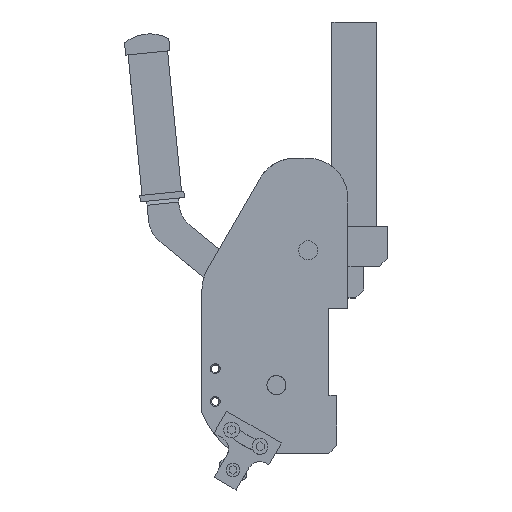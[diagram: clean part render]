
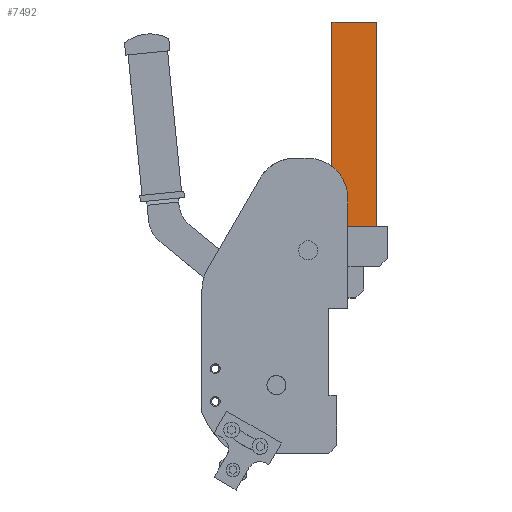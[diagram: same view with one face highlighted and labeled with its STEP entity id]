
A CAD part, top view. The second image highlights one B-rep face of the part: STEP entity #7492.
In plain terms, the highlighted planar face has unit normal (0, 0, 1) as drawn and (0, 0, -1) by its records, which use the part's own axes.
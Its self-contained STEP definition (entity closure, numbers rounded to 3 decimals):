
#84 = ORIENTED_EDGE ( 'NONE', *, *, #9166, .F. ) ;
#885 = ORIENTED_EDGE ( 'NONE', *, *, #8489, .T. ) ;
#922 = LINE ( 'NONE', #11875, #12128 ) ;
#1449 = CARTESIAN_POINT ( 'NONE',  ( 0., 28., -10. ) ) ;
#1513 = EDGE_LOOP ( 'NONE', ( #3774, #885, #84, #3937 ) ) ;
#1603 = AXIS2_PLACEMENT_3D ( 'NONE', #6990, #6906, #6932 ) ;
#3774 = ORIENTED_EDGE ( 'NONE', *, *, #11000, .T. ) ;
#3825 = FACE_OUTER_BOUND ( 'NONE', #1513, .T. ) ;
#3937 = ORIENTED_EDGE ( 'NONE', *, *, #8494, .T. ) ;
#4444 = LINE ( 'NONE', #11584, #11578 ) ;
#5521 = DIRECTION ( 'NONE',  ( 1., 0., 0. ) ) ;
#6454 = VECTOR ( 'NONE', #5521, 1000. ) ;
#6865 = VECTOR ( 'NONE', #9343, 1000. ) ;
#6906 = DIRECTION ( 'NONE',  ( 0., 0., 1. ) ) ;
#6932 = DIRECTION ( 'NONE',  ( 1., 0., 0. ) ) ;
#6976 = PLANE ( 'NONE',  #1603 ) ;
#6990 = CARTESIAN_POINT ( 'NONE',  ( 129., 28., -10. ) ) ;
#7030 = CARTESIAN_POINT ( 'NONE',  ( 0., 28., -10. ) ) ;
#7492 = ADVANCED_FACE ( 'NONE', ( #3825 ), #6976, .F. ) ;
#7531 = CARTESIAN_POINT ( 'NONE',  ( 129., 28., -10. ) ) ;
#8262 = LINE ( 'NONE', #7030, #6454 ) ;
#8331 = CARTESIAN_POINT ( 'NONE',  ( 129., 0., -10. ) ) ;
#8489 = EDGE_CURVE ( 'NONE', #10613, #10767, #11662, .T. ) ;
#8494 = EDGE_CURVE ( 'NONE', #10481, #10977, #8262, .T. ) ;
#9166 = EDGE_CURVE ( 'NONE', #10481, #10767, #4444, .T. ) ;
#9343 = DIRECTION ( 'NONE',  ( -1., 0., 0. ) ) ;
#9759 = CARTESIAN_POINT ( 'NONE',  ( 0., 0., -10. ) ) ;
#10375 = DIRECTION ( 'NONE',  ( 0., -1., 0. ) ) ;
#10463 = CARTESIAN_POINT ( 'NONE',  ( 129., 0., -10. ) ) ;
#10481 = VERTEX_POINT ( 'NONE', #1449 ) ;
#10613 = VERTEX_POINT ( 'NONE', #8331 ) ;
#10662 = DIRECTION ( 'NONE',  ( 0., -1., 0. ) ) ;
#10767 = VERTEX_POINT ( 'NONE', #9759 ) ;
#10977 = VERTEX_POINT ( 'NONE', #7531 ) ;
#11000 = EDGE_CURVE ( 'NONE', #10977, #10613, #922, .T. ) ;
#11578 = VECTOR ( 'NONE', #10375, 1000. ) ;
#11584 = CARTESIAN_POINT ( 'NONE',  ( 0., 28., -10. ) ) ;
#11662 = LINE ( 'NONE', #10463, #6865 ) ;
#11875 = CARTESIAN_POINT ( 'NONE',  ( 129., 28., -10. ) ) ;
#12128 = VECTOR ( 'NONE', #10662, 1000. ) ;
